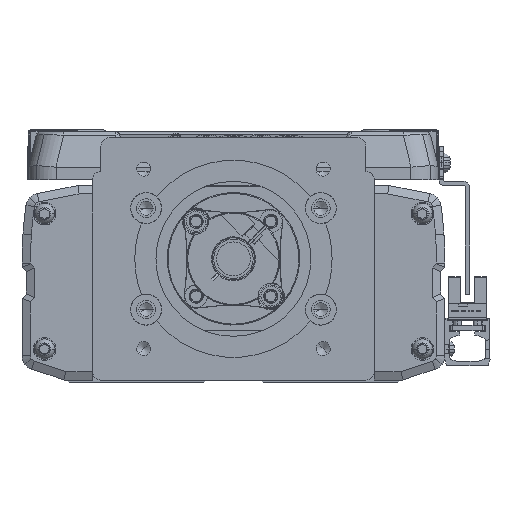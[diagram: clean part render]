
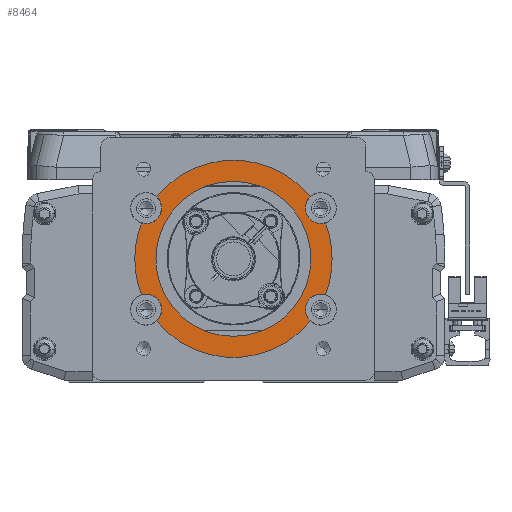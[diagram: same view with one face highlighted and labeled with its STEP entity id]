
A CAD part, left-side view. The second image highlights one B-rep face of the part: STEP entity #8464.
In plain terms, the highlighted planar face has unit normal (-1, 0, 0).
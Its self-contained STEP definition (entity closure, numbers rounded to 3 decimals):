
#8464=ADVANCED_FACE('',(#18531,#18532),#18533,.F.);
#18531=FACE_OUTER_BOUND('',#31671,.T.);
#18532=FACE_BOUND('',#31672,.T.);
#18533=PLANE('',#31673);
#31671=EDGE_LOOP('',(#55892,#55893,#55894,#55895,#55896,#55897,#55898,#55899,#55900,#55901,#55902,#55903,#55904,#55905));
#31672=EDGE_LOOP('',(#55906,#55907));
#31673=AXIS2_PLACEMENT_3D('',#55908,#55909,#55910);
#55892=ORIENTED_EDGE('',*,*,#76152,.F.);
#55893=ORIENTED_EDGE('',*,*,#79155,.T.);
#55894=ORIENTED_EDGE('',*,*,#73497,.T.);
#55895=ORIENTED_EDGE('',*,*,#80539,.F.);
#55896=ORIENTED_EDGE('',*,*,#80540,.F.);
#55897=ORIENTED_EDGE('',*,*,#72366,.T.);
#55898=ORIENTED_EDGE('',*,*,#80541,.F.);
#55899=ORIENTED_EDGE('',*,*,#80542,.F.);
#55900=ORIENTED_EDGE('',*,*,#78108,.T.);
#55901=ORIENTED_EDGE('',*,*,#77047,.T.);
#55902=ORIENTED_EDGE('',*,*,#79360,.F.);
#55903=ORIENTED_EDGE('',*,*,#79305,.F.);
#55904=ORIENTED_EDGE('',*,*,#80543,.T.);
#55905=ORIENTED_EDGE('',*,*,#76783,.F.);
#55906=ORIENTED_EDGE('',*,*,#77826,.F.);
#55907=ORIENTED_EDGE('',*,*,#75907,.F.);
#55908=CARTESIAN_POINT('',(-69.,0.,0.));
#55909=DIRECTION('',(1.0,0.,0.));
#55910=DIRECTION('',(0.,1.0,0.));
#72366=EDGE_CURVE('',#86446,#86450,#86452,.T.);
#73497=EDGE_CURVE('',#88425,#88430,#88432,.T.);
#75907=EDGE_CURVE('',#92468,#92470,#92471,.T.);
#76152=EDGE_CURVE('',#92862,#92864,#92865,.T.);
#76783=EDGE_CURVE('',#92864,#93847,#93848,.T.);
#77047=EDGE_CURVE('',#94249,#94253,#94255,.T.);
#77826=EDGE_CURVE('',#92470,#92468,#95420,.T.);
#78108=EDGE_CURVE('',#95822,#94249,#95823,.T.);
#79155=EDGE_CURVE('',#92862,#88425,#97314,.T.);
#79305=EDGE_CURVE('',#97536,#97538,#97539,.T.);
#79360=EDGE_CURVE('',#97538,#94253,#97612,.T.);
#80539=EDGE_CURVE('',#99202,#88430,#99203,.T.);
#80540=EDGE_CURVE('',#86446,#99202,#99204,.T.);
#80541=EDGE_CURVE('',#99205,#86450,#99206,.T.);
#80542=EDGE_CURVE('',#95822,#99205,#99207,.T.);
#80543=EDGE_CURVE('',#97536,#93847,#99208,.T.);
#86446=VERTEX_POINT('',#106465);
#86450=VERTEX_POINT('',#106470);
#86452=CIRCLE('',#106473,35.0);
#88425=VERTEX_POINT('',#109107);
#88430=VERTEX_POINT('',#109113);
#88432=CIRCLE('',#109116,35.0);
#92468=VERTEX_POINT('',#114697);
#92470=VERTEX_POINT('',#114700);
#92471=CIRCLE('',#114701,27.5);
#92862=VERTEX_POINT('',#115282);
#92864=VERTEX_POINT('',#115285);
#92865=CIRCLE('',#115286,5.5);
#93847=VERTEX_POINT('',#116620);
#93848=CIRCLE('',#116621,5.5);
#94249=VERTEX_POINT('',#117175);
#94253=VERTEX_POINT('',#117180);
#94255=CIRCLE('',#117183,35.0);
#95420=CIRCLE('',#118833,27.5);
#95822=VERTEX_POINT('',#119549);
#95823=CIRCLE('',#119550,35.0);
#97314=CIRCLE('',#122483,35.0);
#97536=VERTEX_POINT('',#122798);
#97538=VERTEX_POINT('',#122801);
#97539=CIRCLE('',#122802,5.5);
#97612=CIRCLE('',#122905,5.5);
#99202=VERTEX_POINT('',#125350);
#99203=CIRCLE('',#125351,5.5);
#99204=CIRCLE('',#125352,5.5);
#99205=VERTEX_POINT('',#125353);
#99206=CIRCLE('',#125354,5.5);
#99207=CIRCLE('',#125355,5.5);
#99208=CIRCLE('',#125356,35.0);
#106465=CARTESIAN_POINT('',(-69.,27.223,-21.998));
#106470=CARTESIAN_POINT('',(-69.,-27.223,-21.998));
#106473=AXIS2_PLACEMENT_3D('',#133090,#133091,#133092);
#109107=CARTESIAN_POINT('',(-69.,35.,0.));
#109113=CARTESIAN_POINT('',(-69.,32.6,-12.738));
#109116=AXIS2_PLACEMENT_3D('',#134805,#134806,#134807);
#114697=CARTESIAN_POINT('',(-69.,27.5,0.));
#114700=CARTESIAN_POINT('',(-69.,-27.5,0.));
#114701=AXIS2_PLACEMENT_3D('',#138615,#138616,#138617);
#115282=CARTESIAN_POINT('',(-69.,32.6,12.738));
#115285=CARTESIAN_POINT('',(-69.,25.5,18.));
#115286=AXIS2_PLACEMENT_3D('',#138951,#138952,#138953);
#116620=CARTESIAN_POINT('',(-69.,27.223,21.998));
#116621=AXIS2_PLACEMENT_3D('',#139995,#139996,#139997);
#117175=CARTESIAN_POINT('',(-69.,-35.,0.));
#117180=CARTESIAN_POINT('',(-69.,-32.6,12.738));
#117183=AXIS2_PLACEMENT_3D('',#140336,#140337,#140338);
#118833=AXIS2_PLACEMENT_3D('',#141508,#141509,#141510);
#119549=CARTESIAN_POINT('',(-69.,-32.6,-12.738));
#119550=AXIS2_PLACEMENT_3D('',#141855,#141856,#141857);
#122483=AXIS2_PLACEMENT_3D('',#143155,#143156,#143157);
#122798=CARTESIAN_POINT('',(-69.,-27.223,21.998));
#122801=CARTESIAN_POINT('',(-69.,-25.5,18.));
#122802=AXIS2_PLACEMENT_3D('',#143406,#143407,#143408);
#122905=AXIS2_PLACEMENT_3D('',#143468,#143469,#143470);
#125350=CARTESIAN_POINT('',(-69.,25.5,-18.));
#125351=AXIS2_PLACEMENT_3D('',#144876,#144877,#144878);
#125352=AXIS2_PLACEMENT_3D('',#144879,#144880,#144881);
#125353=CARTESIAN_POINT('',(-69.,-25.5,-18.));
#125354=AXIS2_PLACEMENT_3D('',#144882,#144883,#144884);
#125355=AXIS2_PLACEMENT_3D('',#144885,#144886,#144887);
#125356=AXIS2_PLACEMENT_3D('',#144888,#144889,#144890);
#133090=CARTESIAN_POINT('',(-69.,0.,0.));
#133091=DIRECTION('',(-1.0,0.,0.));
#133092=DIRECTION('',(0.,1.0,0.));
#134805=CARTESIAN_POINT('',(-69.,0.,0.));
#134806=DIRECTION('',(-1.0,0.,0.));
#134807=DIRECTION('',(0.,1.0,0.));
#138615=CARTESIAN_POINT('',(-69.,0.,0.));
#138616=DIRECTION('',(-1.0,0.,0.));
#138617=DIRECTION('',(0.,1.0,0.));
#138951=CARTESIAN_POINT('',(-69.,31.,18.));
#138952=DIRECTION('',(-1.0,0.,0.));
#138953=DIRECTION('',(0.,1.0,0.));
#139995=CARTESIAN_POINT('',(-69.,31.,18.));
#139996=DIRECTION('',(-1.0,0.,0.));
#139997=DIRECTION('',(0.,1.0,0.));
#140336=CARTESIAN_POINT('',(-69.,0.,0.));
#140337=DIRECTION('',(-1.0,0.,0.));
#140338=DIRECTION('',(0.,1.0,0.));
#141508=CARTESIAN_POINT('',(-69.,0.,0.));
#141509=DIRECTION('',(-1.0,0.,0.));
#141510=DIRECTION('',(0.,1.0,0.));
#141855=CARTESIAN_POINT('',(-69.,0.,0.));
#141856=DIRECTION('',(-1.0,0.,0.));
#141857=DIRECTION('',(0.,1.0,0.));
#143155=CARTESIAN_POINT('',(-69.,0.,0.));
#143156=DIRECTION('',(-1.0,0.,0.));
#143157=DIRECTION('',(0.,1.0,0.));
#143406=CARTESIAN_POINT('',(-69.,-31.,18.));
#143407=DIRECTION('',(-1.0,0.,0.));
#143408=DIRECTION('',(0.,-1.0,0.));
#143468=CARTESIAN_POINT('',(-69.,-31.,18.));
#143469=DIRECTION('',(-1.0,0.,0.));
#143470=DIRECTION('',(0.,-1.0,0.));
#144876=CARTESIAN_POINT('',(-69.,31.,-18.));
#144877=DIRECTION('',(-1.0,0.,0.));
#144878=DIRECTION('',(0.,1.0,0.));
#144879=CARTESIAN_POINT('',(-69.,31.,-18.));
#144880=DIRECTION('',(-1.0,0.,0.));
#144881=DIRECTION('',(0.,1.0,0.));
#144882=CARTESIAN_POINT('',(-69.,-31.,-18.));
#144883=DIRECTION('',(-1.0,0.,0.));
#144884=DIRECTION('',(0.,-1.0,0.));
#144885=CARTESIAN_POINT('',(-69.,-31.,-18.));
#144886=DIRECTION('',(-1.0,0.,0.));
#144887=DIRECTION('',(0.,-1.0,0.));
#144888=CARTESIAN_POINT('',(-69.,0.,0.));
#144889=DIRECTION('',(-1.0,0.,0.));
#144890=DIRECTION('',(0.,1.0,0.));
